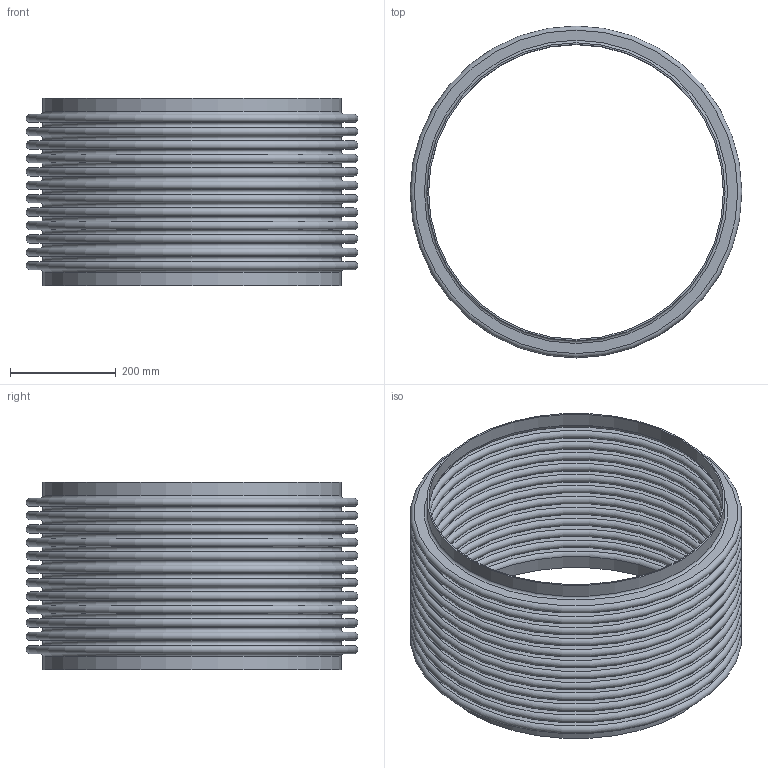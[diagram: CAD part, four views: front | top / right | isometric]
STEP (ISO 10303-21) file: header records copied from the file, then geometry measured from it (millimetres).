
FILE_DESCRIPTION(/* description */ ('STOCK BELLOWS: U.S-22-12-300L, 22.000 I.D., 24.750 O.D., 2 PLY, 16 GA (0.060 THICK), 12 CONS., 1.000 PITCH, 1.000 TANGENT. '),/* implementation_level */ '2;1');
FILE_NAME(/* name */ 'STOCK BELLOW - US-22-12-300L.stp',/* time_stamp */ '2026-07-21T13:32:14-05:00',/* author */ ('KennethB'),/* organization */ (''),/* preprocessor_version */ 'ST-DEVELOPER v20.1',/* originating_system */ 'Autodesk Inventor 2026',/* authorisation */ '');
FILE_SCHEMA (('AUTOMOTIVE_DESIGN { 1 0 10303 214 3 1 1 }'));
Length unit declared in the file: inch
Products named in the file (1): STOCK BELLOW - US-22-12-300L
Bounding box: 628.65 x 628.65 x 355.6 mm (x, y, z)
Volume: 5611914 mm3; surface area: 3714638.4 mm2
Topology: 3 solids, 3 shells, 108 faces, 162 edges, 109 vertices
Faces by surface type: plane 54, torus 50, cylinder 4
Full cylindrical faces by diameter (mm): 558.8 x2, 564.896 x2
Entity records: 2550 total; most frequent: DIRECTION 538, CARTESIAN_POINT 380, ORIENTED_EDGE 324, AXIS2_PLACEMENT_3D 267, EDGE_LOOP 162, EDGE_CURVE 162, CIRCLE 158, FACE_OUTER_BOUND 108
